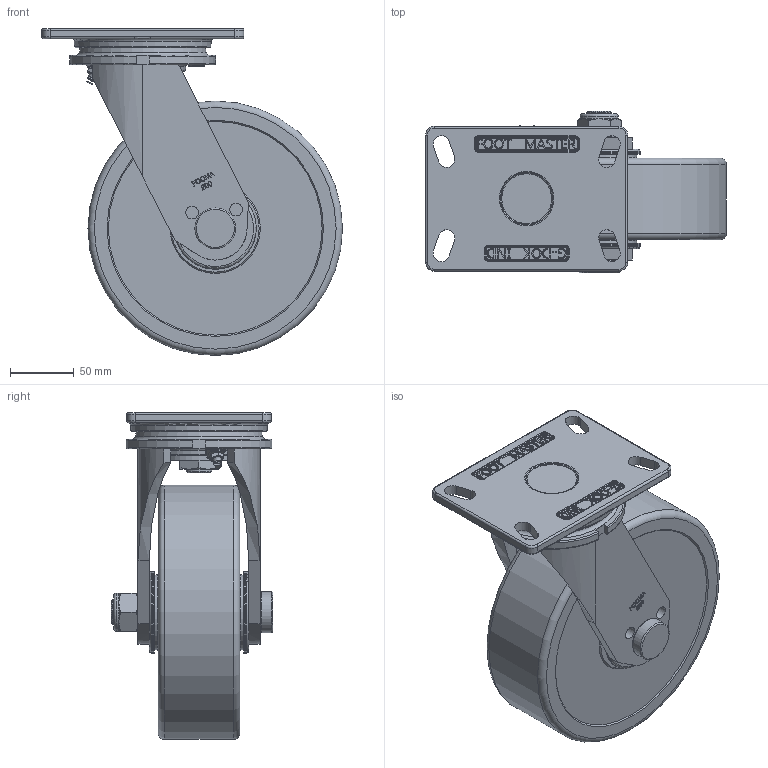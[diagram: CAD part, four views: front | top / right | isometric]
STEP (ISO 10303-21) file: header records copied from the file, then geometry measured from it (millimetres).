
FILE_DESCRIPTION(/* description */ (''),/* implementation_level */ '2;1');
FILE_NAME(/* name */ '\\192.168.10.38\지덕공유\1.기술연구소\손동원\GF-SERIES\3D\GF-200-ASF-MCD.stp',/* time_stamp */ '2023-07-25T14:03:41+09:00',/* author */ ('admin'),/* organization */ (''),/* preprocessor_version */ 'ST-DEVELOPER v18.1',/* originating_system */ 'Autodesk Inventor 2021',/* authorisation */ '');
FILE_SCHEMA (('AUTOMOTIVE_DESIGN { 1 0 10303 214 3 1 1 }'));
Length unit declared in the file: millimetre
Products named in the file (1): GF-200-ASF-MCD
Bounding box: 236.49 x 127 x 256.99 mm (x, y, z)
Volume: 2561173.1 mm3; surface area: 211225.9 mm2
Topology: 1 solids, 1 shells, 1154 faces, 3039 edges, 1959 vertices
Faces by surface type: bspline 427, plane 426, cylinder 154, torus 83, cone 56, sphere 8
Full cylindrical faces by diameter (mm): 6 x1, 10 x4, 20 x2, 30 x1, 32 x1, 34 x2, 43 x2, 58.986 x2, 59 x1, 64.519 x2, 199.986 x1
Entity records: 39897 total; most frequent: CARTESIAN_POINT 14062, ORIENTED_EDGE 6042, DIRECTION 4164, EDGE_CURVE 3021, VERTEX_POINT 1959, LINE 1514, VECTOR 1514, AXIS2_PLACEMENT_3D 1325
